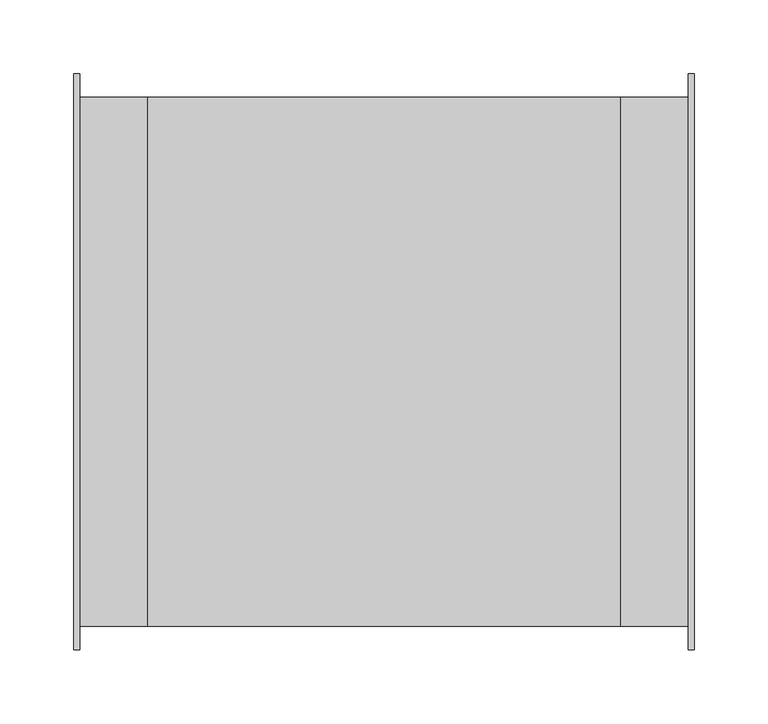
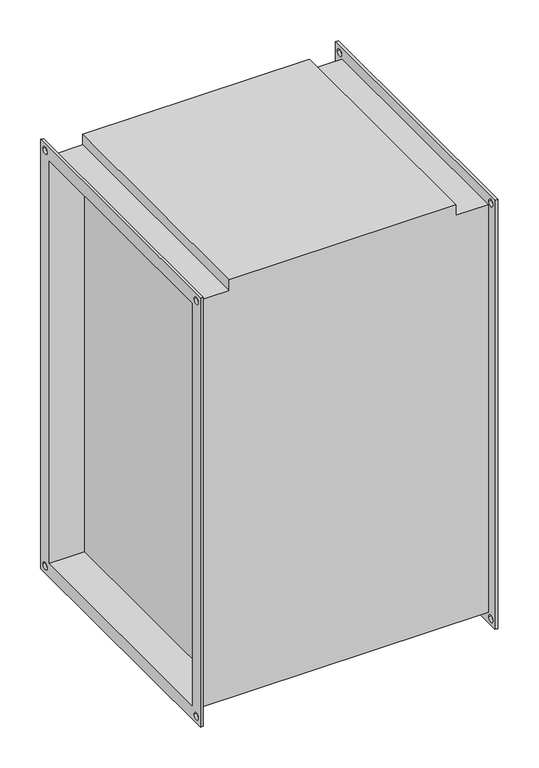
"""IFC4 building model written with IfcOpenShell, lengths in millimetres: proxy geometry, СВ_ВоздухонагревательЭлектрический_КанальныйПрямоугольный_200-1000_SPH-E : SPH-E-600x350/15."""

from ifc_helpers import new_model, si_unit, frame, origin, place, context, project, spatial, polyline, circle_curve, source, transform, mapped, element, save
from ifc_brep_helpers import plane_surface, revolved_surface, advanced_brep


def mechanical_equipment_63632d9b(model_context):
    return source(origin(), model_context, "Body", "AdvancedBrep", [
        advanced_brep(
        [(-160.0, -179.0, 304.0), (-206.0, -179.0, 304.0), (-206.0, -179.0, -304.0), (206.0, -179.0, -304.0), (206.0, -179.0, 304.0), (160.0, -179.0, 304.0), (160.0, -179.0, 320.0), (-160.0, -179.0, 320.0), (-206.0, 179.0, -304.0), (206.0, 179.0, -304.0), (-206.0, 179.0, 304.0), (-160.0, 179.0, 304.0), (-160.0, 179.0, 320.0), (160.0, 179.0, 320.0), (160.0, 179.0, 304.0), (206.0, 179.0, 304.0), (160.0, 175.0, -300.0), (160.0, 175.0, 300.0), (160.0, -175.0, 300.0), (160.0, -175.0, -300.0), (-160.0, -175.0, 300.0), (-160.0, 175.0, 300.0), (-160.0, 175.0, -300.0), (-160.0, -175.0, -300.0), (-210.0, -195.0, 320.0), (-210.0, 195.0, 320.0), (-210.0, 195.0, -320.0), (-210.0, -195.0, -320.0), (-210.0, -175.0, 300.0), (-210.0, -175.0, -300.0), (-210.0, 175.0, -300.0), (-210.0, 175.0, 300.0), (-210.0, 180.0, 310.0), (-210.0, 190.0, 310.0), (-210.0, -190.0, 310.0), (-210.0, -180.0, 310.0), (-210.0, -190.0, -310.0), (-210.0, -180.0, -310.0), (-210.0, 180.0, -310.0), (-210.0, 190.0, -310.0), (-206.0, -195.0, 320.0), (-206.0, -195.0, -320.0), (-206.0, 195.0, -320.0), (-206.0, 195.0, 320.0), (-206.0, 190.0, 310.0), (-206.0, 180.0, 310.0), (-206.0, -180.0, 310.0), (-206.0, -190.0, 310.0), (-206.0, -180.0, -310.0), (-206.0, -190.0, -310.0), (-206.0, 190.0, -310.0), (-206.0, 180.0, -310.0), (206.0, 195.0, 320.0), (206.0, 195.0, -320.0), (206.0, -195.0, -320.0), (206.0, -195.0, 320.0), (206.0, 180.0, 310.0), (206.0, 190.0, 310.0), (206.0, -190.0, 310.0), (206.0, -180.0, 310.0), (206.0, -190.0, -310.0), (206.0, -180.0, -310.0), (206.0, 180.0, -310.0), (206.0, 190.0, -310.0), (210.0, 195.0, 320.0), (210.0, -195.0, 320.0), (210.0, -195.0, -320.0), (210.0, 195.0, -320.0), (210.0, 175.0, 300.0), (210.0, 175.0, -300.0), (210.0, -175.0, -300.0), (210.0, -175.0, 300.0), (210.0, 190.0, 310.0), (210.0, 180.0, 310.0), (210.0, -180.0, 310.0), (210.0, -190.0, 310.0), (210.0, -180.0, -310.0), (210.0, -190.0, -310.0), (210.0, 190.0, -310.0), (210.0, 180.0, -310.0)],
        [
            (0, 1),
            (1, 2),
            (2, 3),
            (3, 4),
            (4, 5),
            (5, 6),
            (6, 7),
            (7, 0),
            (2, 8),
            (8, 9),
            (9, 3),
            (10, 11),
            (11, 12),
            (12, 13),
            (13, 14),
            (14, 15),
            (15, 9),
            (8, 10),
            (0, 11),
            (10, 1),
            (13, 6),
            (5, 14),
            (16, 17),
            (17, 18),
            (18, 19),
            (19, 16),
            (7, 12),
            (20, 21),
            (21, 22),
            (22, 23),
            (23, 20),
            (4, 15),
            (24, 25),
            (25, 26),
            (26, 27),
            (27, 24),
            (28, 29),
            (29, 30),
            (30, 31),
            (31, 28),
            (32, 33, circle_curve(frame((-210.0, 185.0, 310.0), z_axis=(1.0, 0.0, 0.0), x_axis=(0.0, 1.0, 0.0)), 5.0)),
            (33, 32, circle_curve(frame((-210.0, 185.0, 310.0), z_axis=(1.0, 0.0, 0.0), x_axis=(0.0, 1.0, 0.0)), 5.0)),
            (34, 35, circle_curve(frame((-210.0, -185.0, 310.0), z_axis=(1.0, 0.0, 0.0), x_axis=(0.0, 1.0, 0.0)), 5.0)),
            (35, 34, circle_curve(frame((-210.0, -185.0, 310.0), z_axis=(1.0, 0.0, 0.0), x_axis=(0.0, 1.0, 0.0)), 5.0)),
            (36, 37, circle_curve(frame((-210.0, -185.0, -310.0), z_axis=(1.0, 0.0, 0.0), x_axis=(0.0, 1.0, 0.0)), 5.0)),
            (37, 36, circle_curve(frame((-210.0, -185.0, -310.0), z_axis=(1.0, 0.0, 0.0), x_axis=(0.0, 1.0, 0.0)), 5.0)),
            (38, 39, circle_curve(frame((-210.0, 185.0, -310.0), z_axis=(1.0, 0.0, 0.0), x_axis=(0.0, 1.0, 0.0)), 5.0)),
            (39, 38, circle_curve(frame((-210.0, 185.0, -310.0), z_axis=(1.0, 0.0, 0.0), x_axis=(0.0, 1.0, 0.0)), 5.0)),
            (40, 41),
            (41, 42),
            (42, 43),
            (43, 40),
            (44, 45, circle_curve(frame((-206.0, 185.0, 310.0), z_axis=(-1.0, 0.0, 0.0), x_axis=(0.0, 1.0, 0.0)), 5.0)),
            (45, 44, circle_curve(frame((-206.0, 185.0, 310.0), z_axis=(-1.0, 0.0, 0.0), x_axis=(0.0, 1.0, 0.0)), 5.0)),
            (46, 47, circle_curve(frame((-206.0, -185.0, 310.0), z_axis=(-1.0, 0.0, 0.0), x_axis=(0.0, 1.0, 0.0)), 5.0)),
            (47, 46, circle_curve(frame((-206.0, -185.0, 310.0), z_axis=(-1.0, 0.0, 0.0), x_axis=(0.0, 1.0, 0.0)), 5.0)),
            (48, 49, circle_curve(frame((-206.0, -185.0, -310.0), z_axis=(-1.0, 0.0, 0.0), x_axis=(0.0, 1.0, 0.0)), 5.0)),
            (49, 48, circle_curve(frame((-206.0, -185.0, -310.0), z_axis=(-1.0, 0.0, 0.0), x_axis=(0.0, 1.0, 0.0)), 5.0)),
            (50, 51, circle_curve(frame((-206.0, 185.0, -310.0), z_axis=(-1.0, 0.0, 0.0), x_axis=(0.0, 1.0, 0.0)), 5.0)),
            (51, 50, circle_curve(frame((-206.0, 185.0, -310.0), z_axis=(-1.0, 0.0, 0.0), x_axis=(0.0, 1.0, 0.0)), 5.0)),
            (27, 41),
            (40, 24),
            (26, 42),
            (25, 43),
            (52, 53),
            (53, 54),
            (54, 55),
            (55, 52),
            (56, 57, circle_curve(frame((206.0, 185.0, 310.0), z_axis=(1.0, 0.0, 0.0), x_axis=(0.0, 1.0, 0.0)), 5.0)),
            (57, 56, circle_curve(frame((206.0, 185.0, 310.0), z_axis=(1.0, 0.0, 0.0), x_axis=(0.0, 1.0, 0.0)), 5.0)),
            (58, 59, circle_curve(frame((206.0, -185.0, 310.0), z_axis=(1.0, 0.0, 0.0), x_axis=(0.0, 1.0, 0.0)), 5.0)),
            (59, 58, circle_curve(frame((206.0, -185.0, 310.0), z_axis=(1.0, 0.0, 0.0), x_axis=(0.0, 1.0, 0.0)), 5.0)),
            (60, 61, circle_curve(frame((206.0, -185.0, -310.0), z_axis=(1.0, 0.0, 0.0), x_axis=(0.0, 1.0, 0.0)), 5.0)),
            (61, 60, circle_curve(frame((206.0, -185.0, -310.0), z_axis=(1.0, 0.0, 0.0), x_axis=(0.0, 1.0, 0.0)), 5.0)),
            (62, 63, circle_curve(frame((206.0, 185.0, -310.0), z_axis=(1.0, 0.0, 0.0), x_axis=(0.0, 1.0, 0.0)), 5.0)),
            (63, 62, circle_curve(frame((206.0, 185.0, -310.0), z_axis=(1.0, 0.0, 0.0), x_axis=(0.0, 1.0, 0.0)), 5.0)),
            (64, 65),
            (65, 66),
            (66, 67),
            (67, 64),
            (68, 69),
            (69, 70),
            (70, 71),
            (71, 68),
            (72, 73, circle_curve(frame((210.0, 185.0, 310.0), z_axis=(-1.0, 0.0, 0.0), x_axis=(0.0, 1.0, 0.0)), 5.0)),
            (73, 72, circle_curve(frame((210.0, 185.0, 310.0), z_axis=(-1.0, 0.0, 0.0), x_axis=(0.0, 1.0, 0.0)), 5.0)),
            (74, 75, circle_curve(frame((210.0, -185.0, 310.0), z_axis=(-1.0, 0.0, 0.0), x_axis=(0.0, 1.0, 0.0)), 5.0)),
            (75, 74, circle_curve(frame((210.0, -185.0, 310.0), z_axis=(-1.0, 0.0, 0.0), x_axis=(0.0, 1.0, 0.0)), 5.0)),
            (76, 77, circle_curve(frame((210.0, -185.0, -310.0), z_axis=(-1.0, 0.0, 0.0), x_axis=(0.0, 1.0, 0.0)), 5.0)),
            (77, 76, circle_curve(frame((210.0, -185.0, -310.0), z_axis=(-1.0, 0.0, 0.0), x_axis=(0.0, 1.0, 0.0)), 5.0)),
            (78, 79, circle_curve(frame((210.0, 185.0, -310.0), z_axis=(-1.0, 0.0, 0.0), x_axis=(0.0, 1.0, 0.0)), 5.0)),
            (79, 78, circle_curve(frame((210.0, 185.0, -310.0), z_axis=(-1.0, 0.0, 0.0), x_axis=(0.0, 1.0, 0.0)), 5.0)),
            (55, 65),
            (64, 52),
            (54, 66),
            (53, 67),
            (31, 21),
            (20, 28),
            (30, 22),
            (29, 23),
            (68, 17),
            (16, 69),
            (19, 70),
            (18, 71),
            (32, 45),
            (44, 33),
            (56, 73),
            (72, 57),
            (34, 47),
            (46, 35),
            (58, 75),
            (74, 59),
            (36, 49),
            (48, 37),
            (60, 77),
            (76, 61),
            (38, 51),
            (50, 39),
            (62, 79),
            (78, 63),
        ],
        [
            plane_surface(frame((-160.0, -179.0, 304.0), z_axis=(0.0, -1.0, 0.0), x_axis=(-1.0, 0.0, 0.0))),
            plane_surface(frame((-160.0, -179.0, -304.0), z_axis=(0.0, 0.0, -1.0), x_axis=(-1.0, 0.0, 0.0))),
            plane_surface(frame((-160.0, 179.0, -304.0), z_axis=(0.0, 1.0, 0.0), x_axis=(-1.0, 0.0, 0.0))),
            plane_surface(frame((-160.0, 179.0, 304.0), z_axis=(0.0, 0.0, 1.0), x_axis=(-1.0, 0.0, 0.0))),
            plane_surface(frame((160.0, -179.0, 320.0), z_axis=(1.0, 0.0, 0.0), x_axis=(0.0, 0.0, -1.0))),
            plane_surface(frame((-160.0, -179.0, 320.0), z_axis=(-1.0, 0.0, 0.0), x_axis=(0.0, 0.0, 1.0))),
            plane_surface(frame((160.0, 179.0, 320.0), z_axis=(0.0, 0.0, 1.0), x_axis=(-1.0, 0.0, 0.0))),
            plane_surface(frame((206.0, 179.0, 304.0), z_axis=(0.0, 0.0, 1.0), x_axis=(-1.0, 0.0, 0.0))),
            plane_surface(frame((-210.0, -195.0, 320.0), z_axis=(-1.0, 0.0, 0.0), x_axis=(0.0, 0.0, 1.0))),
            plane_surface(frame((-206.0, -195.0, 320.0), z_axis=(1.0, 0.0, 0.0), x_axis=(0.0, 0.0, -1.0))),
            plane_surface(frame((-206.0, -195.0, 320.0), z_axis=(0.0, -1.0, 0.0), x_axis=(-1.0, 0.0, 0.0))),
            plane_surface(frame((-206.0, -195.0, -320.0), z_axis=(0.0, 0.0, -1.0), x_axis=(-1.0, 0.0, 0.0))),
            plane_surface(frame((-206.0, 195.0, -320.0), z_axis=(0.0, 1.0, 0.0), x_axis=(-1.0, 0.0, 0.0))),
            plane_surface(frame((-206.0, 195.0, 320.0), z_axis=(0.0, 0.0, 1.0), x_axis=(-1.0, 0.0, 0.0))),
            plane_surface(frame((206.0, 175.0, -300.0), z_axis=(-1.0, 0.0, 0.0), x_axis=(0.0, 0.0, 1.0))),
            plane_surface(frame((210.0, 175.0, -300.0), z_axis=(1.0, 0.0, 0.0), x_axis=(0.0, 0.0, -1.0))),
            plane_surface(frame((210.0, 195.0, 320.0), z_axis=(0.0, 0.0, 1.0), x_axis=(-1.0, 0.0, 0.0))),
            plane_surface(frame((210.0, -195.0, 320.0), z_axis=(0.0, -1.0, 0.0), x_axis=(-1.0, 0.0, 0.0))),
            plane_surface(frame((210.0, -195.0, -320.0), z_axis=(0.0, 0.0, -1.0), x_axis=(-1.0, 0.0, 0.0))),
            plane_surface(frame((210.0, 195.0, -320.0), z_axis=(0.0, 1.0, 0.0), x_axis=(-1.0, 0.0, 0.0))),
            plane_surface(frame((-206.0, -175.0, 300.0), z_axis=(0.0, 0.0, -1.0), x_axis=(-1.0, 0.0, 0.0))),
            plane_surface(frame((-206.0, 175.0, 300.0), z_axis=(0.0, -1.0, 0.0), x_axis=(-1.0, 0.0, 0.0))),
            plane_surface(frame((-206.0, 175.0, -300.0), z_axis=(0.0, 0.0, 1.0), x_axis=(-1.0, 0.0, 0.0))),
            plane_surface(frame((-206.0, -175.0, -300.0), z_axis=(0.0, 1.0, 0.0), x_axis=(-1.0, 0.0, 0.0))),
            plane_surface(frame((210.0, 175.0, 300.0), z_axis=(0.0, -1.0, 0.0), x_axis=(-1.0, 0.0, 0.0))),
            plane_surface(frame((210.0, 175.0, -300.0), z_axis=(0.0, 0.0, 1.0), x_axis=(-1.0, 0.0, 0.0))),
            plane_surface(frame((210.0, -175.0, -300.0), z_axis=(0.0, 1.0, 0.0), x_axis=(-1.0, 0.0, 0.0))),
            plane_surface(frame((210.0, -175.0, 300.0), z_axis=(0.0, 0.0, -1.0), x_axis=(-1.0, 0.0, 0.0))),
            revolved_surface(polyline([(-206.0, 190.0, 310.0), (-210.0, 190.0, 310.0)]), (-210.0, 185.0, 310.0), (1.0, 0.0, 0.0)),
            revolved_surface(polyline([(210.0, 190.0, 310.0), (206.0, 190.0, 310.0)]), (-210.0, 185.0, 310.0), (1.0, 0.0, 0.0)),
            revolved_surface(polyline([(-206.0, -180.0, 310.0), (-210.0, -180.0, 310.0)]), (0.0, -185.0, 310.0), (1.0, 0.0, 0.0)),
            revolved_surface(polyline([(210.0, -180.0, 310.0), (206.0, -180.0, 310.0)]), (0.0, -185.0, 310.0), (1.0, 0.0, 0.0)),
            revolved_surface(polyline([(-206.0, -180.0, -310.0), (-210.0, -180.0, -310.0)]), (0.0, -185.0, -310.0), (1.0, 0.0, 0.0)),
            revolved_surface(polyline([(210.0, -180.0, -310.0), (206.0, -180.0, -310.0)]), (0.0, -185.0, -310.0), (1.0, 0.0, 0.0)),
            revolved_surface(polyline([(-206.0, 190.0, -310.0), (-210.0, 190.0, -310.0)]), (0.0, 185.0, -310.0), (1.0, 0.0, 0.0)),
            revolved_surface(polyline([(210.0, 190.0, -310.0), (206.0, 190.0, -310.0)]), (0.0, 185.0, -310.0), (1.0, 0.0, 0.0)),
        ],
        [
            (0, [[1, 2, 3, 4, 5, 6, 7, 8]]),
            (1, [[-3, 9, 10, 11]]),
            (2, [[12, 13, 14, 15, 16, 17, -10, 18]]),
            (3, [[-1, 19, -12, 20]]),
            (4, [[21, -6, 22, -15]]),
            (4, [[23, 24, 25, 26]]),
            (5, [[27, -13, -19, -8]]),
            (5, [[28, 29, 30, 31]]),
            (6, [[-21, -14, -27, -7]]),
            (7, [[-5, 32, -16, -22]]),
            (8, [[33, 34, 35, 36], [37, 38, 39, 40], [41, 42], [43, 44], [45, 46], [47, 48]]),
            (9, [[49, 50, 51, 52], [-2, -20, -18, -9], [53, 54], [55, 56], [57, 58], [59, 60]]),
            (10, [[-36, 61, -49, 62]]),
            (11, [[-35, 63, -50, -61]]),
            (12, [[-34, 64, -51, -63]]),
            (13, [[-33, -62, -52, -64]]),
            (14, [[65, 66, 67, 68], [-4, -11, -17, -32], [69, 70], [71, 72], [73, 74], [75, 76]]),
            (15, [[77, 78, 79, 80], [81, 82, 83, 84], [85, 86], [87, 88], [89, 90], [91, 92]]),
            (16, [[-68, 93, -77, 94]]),
            (17, [[-67, 95, -78, -93]]),
            (18, [[-66, 96, -79, -95]]),
            (19, [[-65, -94, -80, -96]]),
            (20, [[-40, 97, -28, 98]]),
            (21, [[-39, 99, -29, -97]]),
            (22, [[-38, 100, -30, -99]]),
            (23, [[-37, -98, -31, -100]]),
            (24, [[-81, 101, -23, 102]]),
            (25, [[-82, -102, -26, 103]]),
            (26, [[-83, -103, -25, 104]]),
            (27, [[-101, -84, -104, -24]]),
            (28, [[105, -53, 106, -41]]),
            (29, [[107, -85, 108, -69]]),
            (28, [[-105, -42, -106, -54]]),
            (29, [[-107, -70, -108, -86]]),
            (30, [[109, -55, 110, -43]]),
            (31, [[111, -87, 112, -71]]),
            (30, [[-109, -44, -110, -56]]),
            (31, [[-111, -72, -112, -88]]),
            (32, [[113, -57, 114, -45]]),
            (33, [[115, -89, 116, -73]]),
            (32, [[-113, -46, -114, -58]]),
            (33, [[-115, -74, -116, -90]]),
            (34, [[117, -59, 118, -47]]),
            (35, [[119, -91, 120, -75]]),
            (34, [[-117, -48, -118, -60]]),
            (35, [[-119, -76, -120, -92]]),
        ],
    ),
    ])


if __name__ == "__main__":
    model = new_model("IFC4")
    model_context = context("Model", 3, world=origin())
    ifc_project = project(units=[si_unit("LENGTHUNIT", "METRE", prefix="MILLI")], contexts=[model_context])
    site = spatial("IfcSite", under=ifc_project)
    building = spatial("IfcBuilding", under=site)
    placement = place(None, origin())
    mechanical_equipment_shape = mechanical_equipment_63632d9b(model_context)
    element("IfcBuildingElementProxy", 1, Name="СВ_ВоздухонагревательЭлектрический_КанальныйПрямоугольный_200-1000_SPH-E : SPH-E-600x350/15", ObjectType="СВ_ВоздухонагревательЭлектрический_КанальныйПрямоугольный_200-1000_SPH-E : SPH-E-600x350/15", at=placement, inside=building, context=model_context, shape_type="MappedRepresentation", body=[
        mapped(mechanical_equipment_shape, transform((0.0, 0.0, 0.0), x_axis=(1.0, 0.0, 0.0), y_axis=(0.0, 1.0, 0.0), z_axis=(0.0, 0.0, 1.0))),
    ])
    save(model, "model.ifc")
